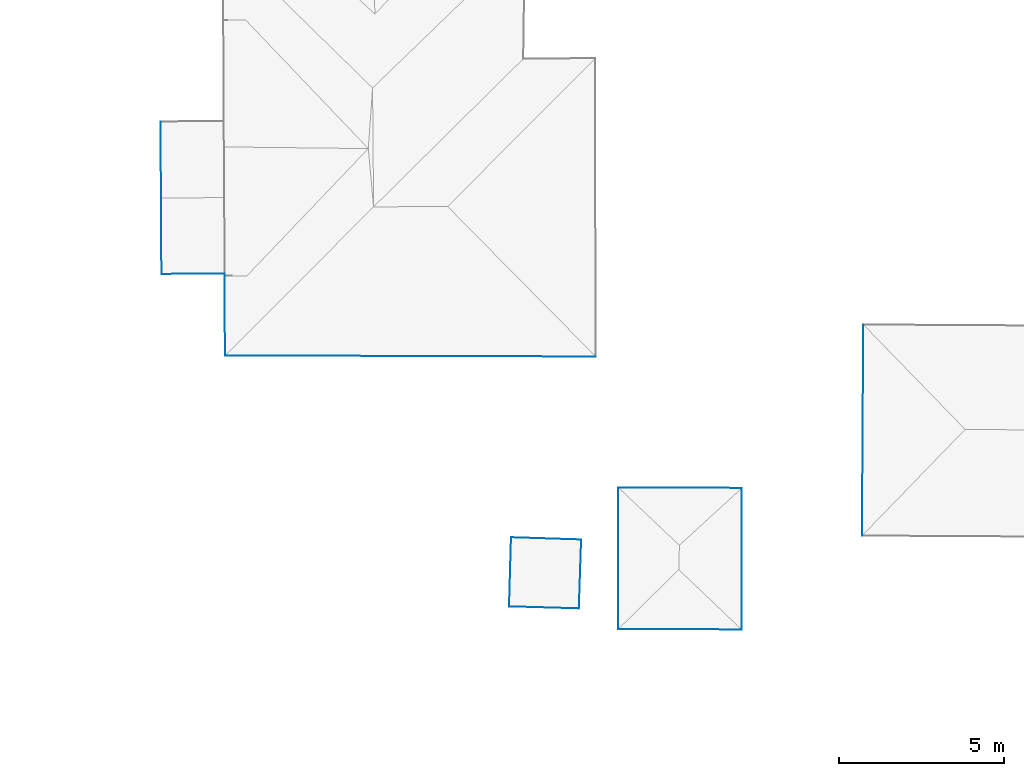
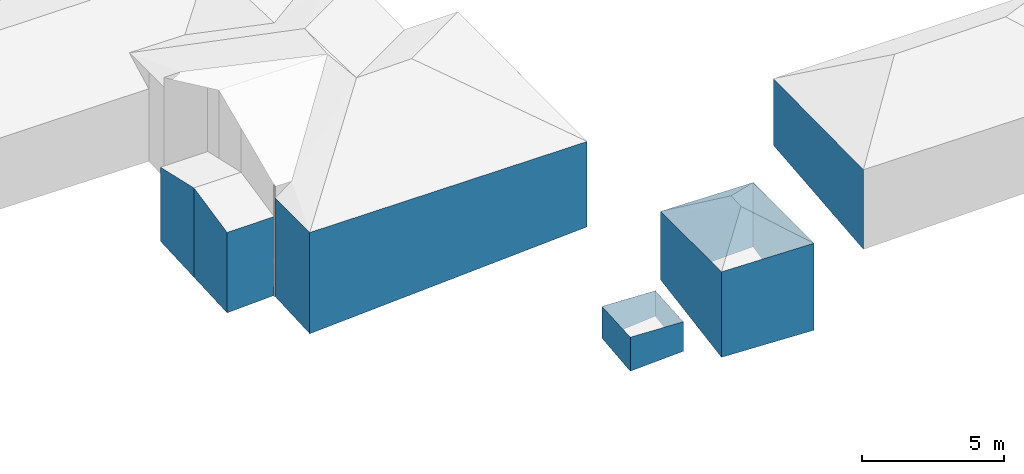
# Not in any storey, part 26 of 59: 14 walls.
"""IFC4 building model written with IfcOpenShell, lengths in metres."""

import ifcopenshell
import ifcopenshell.guid

model = None  # the IFC model being written
_history = None  # IfcOwnerHistory: only IFC2X3 demands one
_inside = {}  # id of a spatial element -> (the spatial element, [elements in it])
_under = {}  # id of a project, library or spatial element -> (it, [spatial elements below it])
_declared = {}  # id of a project -> (the project, [libraries it declares])
_typed = {}  # id of a type object -> (the type object, [elements of that type])
_made_of = {}  # id of a material, layer set ... -> (it, [elements and type objects made of it])


def new_model(schema):
    """Start an empty IFC model of exactly this schema.

    Asked for "IFC4X3", IfcOpenShell would pick the latest addendum, in which some entities
    have other attributes; the version numbers below select the first issue.
    IFC2X3 requires an IfcOwnerHistory on every rooted entity: one is made here for all.
    """
    global model, _history
    if schema == "IFC4X3":
        model = ifcopenshell.file(schema_version=(4, 3, 0, 0))
    else:
        model = ifcopenshell.file(schema=schema)
    _inside.clear()
    _under.clear()
    _declared.clear()
    _typed.clear()
    _made_of.clear()
    _history = None
    if model.schema == "IFC2X3":
        org = make("IfcOrganization", Name="unknown")
        user = make(
            "IfcPersonAndOrganization",
            ThePerson=make("IfcPerson", FamilyName="unknown"),
            TheOrganization=org,
        )
        app = make(
            "IfcApplication",
            ApplicationDeveloper=org,
            Version="unknown",
            ApplicationFullName="unknown",
            ApplicationIdentifier="unknown",
        )
        _history = make(
            "IfcOwnerHistory",
            OwningUser=user,
            OwningApplication=app,
            ChangeAction="ADDED",
            CreationDate=0,
        )
    return model


def make(cls, **values):
    """One entity of the class cls with the attributes given. An attribute that is None is left unset."""
    return model.create_entity(
        cls, **{name: value for name, value in values.items() if value is not None}
    )


def entity(cls, *values):
    """Any entity or typed value of the class cls, its attributes in the order of the schema. None: left unset."""
    e = model.create_entity(cls)
    for i, value in enumerate(values):
        if value is not None:
            e[i] = value
    return e


def rooted(cls, **values):
    """An entity with a GlobalId (a new one), such as an element, a storey or a relation."""
    return make(cls, GlobalId=ifcopenshell.guid.new(), OwnerHistory=_history, **values)


def si_unit(unit_type, name, prefix=None):
    """IfcSIUnit, for example si_unit("LENGTHUNIT", "METRE", prefix="MILLI")."""
    return make("IfcSIUnit", UnitType=unit_type, Prefix=prefix, Name=name)


def converted_unit(unit_type, name, factor, base, dimensions=None, offset=None):
    """IfcConversionBasedUnit, such as the inch: factor (a typed value) times the base unit."""
    return make(
        "IfcConversionBasedUnit"
        if offset is None
        else "IfcConversionBasedUnitWithOffset",
        ConversionOffset=offset,
        Dimensions=None
        if dimensions is None
        else entity("IfcDimensionalExponents", *dimensions),
        UnitType=unit_type,
        Name=name,
        ConversionFactor=make(
            "IfcMeasureWithUnit", ValueComponent=factor, UnitComponent=base
        ),
    )


def assignment(units):
    """IfcUnitAssignment: the units of a project."""
    return None if units is None else make("IfcUnitAssignment", Units=units)


def point(xyz):
    """IfcCartesianPoint."""
    return None if xyz is None else make("IfcCartesianPoint", Coordinates=xyz)


def direction(xyz):
    """IfcDirection."""
    return None if xyz is None else make("IfcDirection", DirectionRatios=xyz)


def frame(location, z_axis=None, x_axis=None):
    """IfcAxis2Placement3D, a coordinate frame: its origin and axes. An axis left out is left unset."""
    return make(
        "IfcAxis2Placement3D",
        Location=point(location),
        Axis=direction(z_axis),
        RefDirection=direction(x_axis),
    )


def origin():
    """The frame at (0, 0, 0) with its axes left unset."""
    return frame((0.0, 0.0, 0.0))


def place(relative_to, where):
    """IfcLocalPlacement: puts the frame where relative to a parent placement (None: the world)."""
    return make(
        "IfcLocalPlacement", PlacementRelTo=relative_to, RelativePlacement=where
    )


def context(
    kind, dimensions, precision=None, world=None, true_north=None, identifier=None
):
    """IfcGeometricRepresentationContext, for example the 3D "Model" context."""
    return make(
        "IfcGeometricRepresentationContext",
        ContextIdentifier=identifier,
        ContextType=kind,
        CoordinateSpaceDimension=dimensions,
        Precision=precision,
        WorldCoordinateSystem=world,
        TrueNorth=true_north,
    )


def subcontext(parent, identifier, kind, view, scale=None):
    """IfcGeometricRepresentationSubContext, for example "Body" below "Model"."""
    return make(
        "IfcGeometricRepresentationSubContext",
        ContextIdentifier=identifier,
        ContextType=kind,
        ParentContext=parent,
        TargetScale=scale,
        TargetView=view,
    )


def project(units=None, contexts=None):
    """IfcProject with its units and contexts."""
    return rooted(
        "IfcProject",
        Name="project",
        RepresentationContexts=contexts,
        UnitsInContext=assignment(units),
    )


def spatial(cls, under=None, at=None, **own):
    """A site, building, storey or space (cls), placed at a placement, below another one or the project."""
    s = rooted(cls, ObjectPlacement=at, **own)
    if under is not None:
        _under.setdefault(under.id(), (under, []))[1].append(s)
    return s


def faces_of(points, faces, orient=None, outer=None):
    """IfcFace entities. A face is a list of loops; a loop is a list of indices into points, from 0.

    orient and outer hold one flag for each loop. By default every Orientation is true, the
    first loop of a face is its IfcFaceOuterBound and the others are IfcFaceBound.
    """
    made = []
    for i, loops in enumerate(faces):
        bounds = []
        for j, loop in enumerate(loops):
            is_outer = j == 0 if outer is None else outer[i][j]
            bounds.append(
                make(
                    "IfcFaceOuterBound" if is_outer else "IfcFaceBound",
                    Bound=make("IfcPolyLoop", Polygon=[points[k] for k in loop]),
                    Orientation=True if orient is None else orient[i][j],
                )
            )
        made.append(make("IfcFace", Bounds=bounds))
    return made


def face_set(faces, orient=None, outer=None):
    """The faces of one IfcConnectedFaceSet. surface_model builds it on its shared points."""
    return ("IfcConnectedFaceSet", faces, orient, outer)


def surface_model(cls, points, shells):
    """IfcFaceBasedSurfaceModel or IfcShellBasedSurfaceModel (cls): surfaces that need not close."""
    shared = [point(p) for p in points]
    made = [make(c, CfsFaces=faces_of(shared, fs, o, b)) for c, fs, o, b in shells]
    if cls == "IfcFaceBasedSurfaceModel":
        return make(cls, FbsmFaces=made)
    return make(cls, SbsmBoundary=made)


def shape(context_of_items, identifier, shape_type, items):
    """IfcShapeRepresentation: the items that make up one representation, for example the "Body"."""
    return make(
        "IfcShapeRepresentation",
        ContextOfItems=context_of_items,
        RepresentationIdentifier=identifier,
        RepresentationType=shape_type,
        Items=items,
    )


def made_of(thing, what):
    """Note that an element or type object is made of a material, layer set ...; save() writes the relation."""
    if what is not None:
        _made_of.setdefault(what.id(), (what, []))[1].append(thing)
    return thing


def element(
    cls,
    number,
    at=None,
    inside=None,
    cuts=None,
    type_object=None,
    material=None,
    context=None,
    identifier="Body",
    shape_type=None,
    held_by="IfcProductDefinitionShape",
    body=None,
    shapes=None,
    **own,
):
    """One element of the class cls, such as IfcWall. Its Tag is "e" and its number.

    at: its placement. inside: the storey or other place that contains it. cuts: it is an
    opening in that element (IfcRelVoidsElement). A single representation is given by context,
    identifier, shape_type and body (its items); several are given by shapes. held_by: the class
    of the entity that holds the representations. save() writes the other relations.
    """
    e = rooted(cls, Tag="e%d" % number, ObjectPlacement=at, **own)
    if body is not None:
        shapes = [shape(context, identifier, shape_type, body)]
    if shapes is not None:
        e.Representation = make(held_by, Representations=shapes)
    if inside is not None:
        _inside.setdefault(inside.id(), (inside, []))[1].append(e)
    if cuts is not None:
        rooted(
            "IfcRelVoidsElement", RelatingBuildingElement=cuts, RelatedOpeningElement=e
        )
    if type_object is not None:
        _typed.setdefault(type_object.id(), (type_object, []))[1].append(e)
    return made_of(e, material)


def aggregate(whole, parts):
    """IfcRelAggregates: a whole, such as a stair, and the parts it consists of."""
    return rooted("IfcRelAggregates", RelatingObject=whole, RelatedObjects=parts)


def save(model, path):
    """Write the relations noted so far, then the file.

    IfcRelAggregates (storeys below a building ...), IfcRelContainedInSpatialStructure (elements
    in a storey), IfcRelDefinesByType, IfcRelAssociatesMaterial and IfcRelDeclares: one each for
    every whole, place, type object, material and project.
    """
    for whole, parts in _under.values():
        aggregate(whole, parts)
    for where, things in _inside.values():
        rooted(
            "IfcRelContainedInSpatialStructure",
            RelatedElements=things,
            RelatingStructure=where,
        )
    for kind, things in _typed.values():
        rooted("IfcRelDefinesByType", RelatedObjects=things, RelatingType=kind)
    for what, things in _made_of.values():
        rooted("IfcRelAssociatesMaterial", RelatedObjects=things, RelatingMaterial=what)
    for by, libraries in _declared.values():
        rooted("IfcRelDeclares", RelatingContext=by, RelatedDefinitions=libraries)
    model.write(path)


model = new_model("IFC4")

# Units and contexts
model_context = context("Model", 3, precision=1e-05, world=origin())
body_context = subcontext(model_context, "Body", "Model", "MODEL_VIEW")
ifc_project = project(units=[converted_unit("PLANEANGLEUNIT", "DEGREE", entity("IfcRatioMeasure", 0.0174532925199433), si_unit("PLANEANGLEUNIT", "RADIAN"), dimensions=[0, 0, 0, 0, 0, 0, 0]), si_unit("AREAUNIT", "SQUARE_METRE"), si_unit("LENGTHUNIT", "METRE")], contexts=[model_context])

# Site, building
site_placement = place(None, origin())
site = spatial("IfcSite", under=ifc_project, at=site_placement, Name="_site")
building_1_placement = place(site_placement, origin())
building_1 = spatial("IfcBuilding", under=site, at=building_1_placement, Name="_building")

# Wall
wall_1_placement = place(building_1_placement, origin())
element("IfcWall", 1, at=wall_1_placement, inside=building_1, Name="Wall", PredefinedType="NOTDEFINED", context=body_context, shape_type="SurfaceModel", body=[
    surface_model("IfcFaceBasedSurfaceModel", [(171.69, 194.08, 218.88), (171.73, 200.49, 218.9), (171.73, 200.49, 216.032), (171.69, 194.08, 215.457)], [face_set([[[0, 1, 2, 3]]])]),
])

# Building
building_2_placement = place(site_placement, origin())
building_2 = spatial("IfcBuilding", under=site, at=building_2_placement, Name="_building")

# Walls
wall_2_placement = place(building_2_placement, origin())
element("IfcWall", 2, at=wall_2_placement, inside=building_2, Name="Wall", PredefinedType="NOTDEFINED", context=body_context, shape_type="SurfaceModel", body=[
    surface_model("IfcFaceBasedSurfaceModel", [(161.03, 194.029, 216.77), (163.16, 193.961, 216.74), (163.16, 193.961, 215.644), (161.03, 194.029, 215.401)], [face_set([[[0, 1, 2, 3]]])]),
])
wall_3_placement = place(building_2_placement, origin())
element("IfcWall", 3, at=wall_3_placement, inside=building_2, Name="Wall", PredefinedType="NOTDEFINED", context=body_context, shape_type="SurfaceModel", body=[
    surface_model("IfcFaceBasedSurfaceModel", [(163.16, 193.961, 216.74), (163.09, 191.869, 216.7), (163.09, 191.869, 215.428), (163.16, 193.961, 215.644)], [face_set([[[0, 1, 2, 3]]])]),
])
wall_4_placement = place(building_2_placement, origin())
element("IfcWall", 4, at=wall_4_placement, inside=building_2, Name="Wall", PredefinedType="NOTDEFINED", context=body_context, shape_type="SurfaceModel", body=[
    surface_model("IfcFaceBasedSurfaceModel", [(160.97, 191.93, 216.74), (161.03, 194.029, 216.77), (161.03, 194.029, 215.401), (160.97, 191.93, 215.277)], [face_set([[[0, 1, 2, 3]]])]),
])
wall_5_placement = place(building_2_placement, origin())
element("IfcWall", 5, at=wall_5_placement, inside=building_2, Name="Wall", PredefinedType="NOTDEFINED", context=body_context, shape_type="SurfaceModel", body=[
    surface_model("IfcFaceBasedSurfaceModel", [(163.09, 191.869, 216.7), (160.97, 191.93, 216.74), (160.97, 191.93, 215.277), (163.09, 191.869, 215.428)], [face_set([[[0, 1, 2, 3]]])]),
])

# Building
building_3_placement = place(site_placement, origin())
building_3 = spatial("IfcBuilding", under=site, at=building_3_placement, Name="_building")

# Walls
wall_6_placement = place(building_3_placement, origin())
element("IfcWall", 6, at=wall_6_placement, inside=building_3, Name="Wall", PredefinedType="NOTDEFINED", context=body_context, shape_type="SurfaceModel", body=[
    surface_model("IfcFaceBasedSurfaceModel", [(152.34, 199.551, 219.64), (152.33, 201.971, 219.66), (152.33, 201.971, 215.425), (152.34, 199.551, 215.287)], [face_set([[[0, 1, 2, 3]]])]),
])
wall_7_placement = place(building_3_placement, origin())
element("IfcWall", 7, at=wall_7_placement, inside=building_3, Name="Wall", PredefinedType="NOTDEFINED", context=body_context, shape_type="SurfaceModel", body=[
    surface_model("IfcFaceBasedSurfaceModel", [(163.6, 199.52, 219.63), (152.34, 199.551, 219.64), (152.34, 199.551, 215.287), (163.6, 199.52, 215.959)], [face_set([[[0, 1, 2, 3]]])]),
])
wall_8_placement = place(building_3_placement, origin())
element("IfcWall", 8, at=wall_8_placement, inside=building_3, Name="Wall", PredefinedType="NOTDEFINED", context=body_context, shape_type="SurfaceModel", body=[
    surface_model("IfcFaceBasedSurfaceModel", [(150.4, 204.34, 219.33), (150.38, 206.66, 218.82), (150.38, 206.66, 215.632), (150.4, 204.34, 215.489)], [face_set([[[0, 1, 2, 3]]])]),
])
wall_9_placement = place(building_3_placement, origin())
element("IfcWall", 9, at=wall_9_placement, inside=building_3, Name="Wall", PredefinedType="NOTDEFINED", context=body_context, shape_type="SurfaceModel", body=[
    surface_model("IfcFaceBasedSurfaceModel", [(150.41, 202.029, 218.82), (150.4, 204.34, 219.33), (150.4, 204.34, 215.489), (150.41, 202.029, 215.357)], [face_set([[[0, 1, 2, 3]]])]),
])
wall_10_placement = place(building_3_placement, origin())
element("IfcWall", 10, at=wall_10_placement, inside=building_3, Name="Wall", PredefinedType="NOTDEFINED", context=body_context, shape_type="SurfaceModel", body=[
    surface_model("IfcFaceBasedSurfaceModel", [(152.33, 202.039, 218.82), (150.41, 202.029, 218.82), (150.41, 202.029, 215.357), (152.33, 202.039, 215.429)], [face_set([[[0, 1, 2, 3]]])]),
])

# Building
building_4_placement = place(site_placement, origin())
building_4 = spatial("IfcBuilding", under=site, at=building_4_placement, Name="_building")

# Walls
wall_11_placement = place(building_4_placement, origin())
element("IfcWall", 11, at=wall_11_placement, inside=building_4, Name="Wall", PredefinedType="NOTDEFINED", context=body_context, shape_type="SurfaceModel", body=[
    surface_model("IfcFaceBasedSurfaceModel", [(164.29, 195.539, 218.8), (168.04, 195.529, 218.73), (168.04, 195.529, 215.967), (164.29, 195.539, 215.849)], [face_set([[[0, 1, 2, 3]]])]),
])
wall_12_placement = place(building_4_placement, origin())
element("IfcWall", 12, at=wall_12_placement, inside=building_4, Name="Wall", PredefinedType="NOTDEFINED", context=body_context, shape_type="SurfaceModel", body=[
    surface_model("IfcFaceBasedSurfaceModel", [(164.28, 191.24, 218.81), (164.29, 195.539, 218.8), (164.29, 195.539, 215.849), (164.28, 191.24, 215.133)], [face_set([[[0, 1, 2, 3]]])]),
])
wall_13_placement = place(building_4_placement, origin())
element("IfcWall", 13, at=wall_13_placement, inside=building_4, Name="Wall", PredefinedType="NOTDEFINED", context=body_context, shape_type="SurfaceModel", body=[
    surface_model("IfcFaceBasedSurfaceModel", [(168.03, 191.23, 218.73), (164.28, 191.24, 218.81), (164.28, 191.24, 215.133), (168.03, 191.23, 214.992)], [face_set([[[0, 1, 2, 3]]])]),
])
wall_14_placement = place(building_4_placement, origin())
element("IfcWall", 14, at=wall_14_placement, inside=building_4, Name="Wall", PredefinedType="NOTDEFINED", context=body_context, shape_type="SurfaceModel", body=[
    surface_model("IfcFaceBasedSurfaceModel", [(168.04, 195.529, 218.73), (168.03, 191.23, 218.73), (168.03, 191.23, 214.992), (168.04, 195.529, 215.967)], [face_set([[[0, 1, 2, 3]]])]),
])

save(model, "model.ifc")
